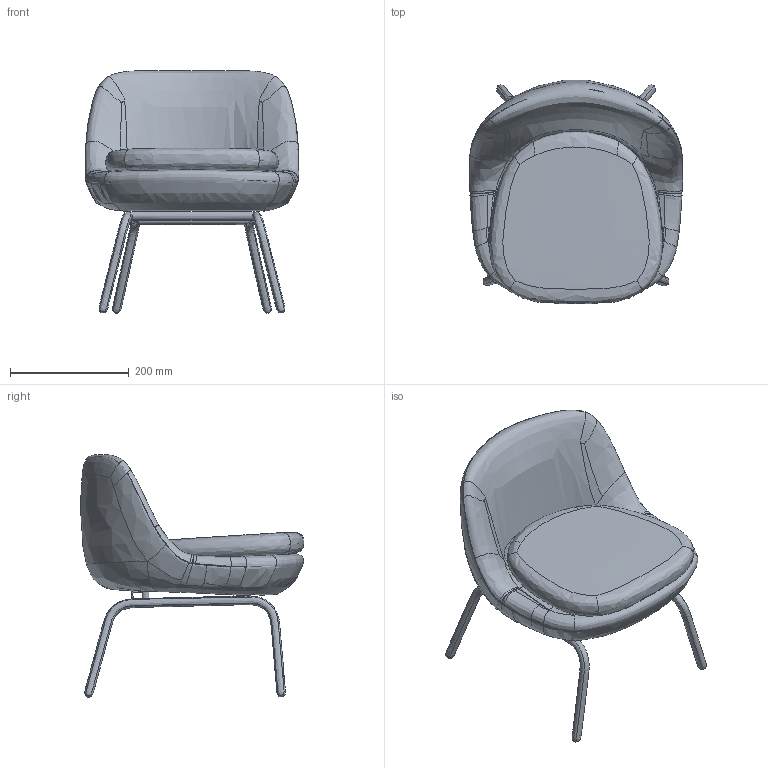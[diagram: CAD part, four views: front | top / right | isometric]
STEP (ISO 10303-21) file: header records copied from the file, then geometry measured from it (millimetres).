
FILE_DESCRIPTION(/* description */ (''),/* implementation_level */ '2;1');
FILE_NAME(/* name */ 'KINOSH~1',/* time_stamp */ '2026-06-15T21:36:05+09:00',/* author */ (''),/* organization */ (''),/* preprocessor_version */ 'ST-DEVELOPER v16.5',/* originating_system */ '',/* authorisation */ '');
FILE_SCHEMA (('AUTOMOTIVE_DESIGN'));
Length unit declared in the file: millimetre
Products named in the file (1): Document
Bounding box: 359.5 x 375.97 x 408.56 mm (x, y, z)
Volume: 11701309.9 mm3; surface area: 642788.5 mm2
Topology: 12 solids, 12 shells, 147 faces, 349 edges, 214 vertices
Faces by surface type: bspline 147
Entity records: 31578 total; most frequent: CARTESIAN_POINT 29273, ORIENTED_EDGE 674, EDGE_CURVE 337, B_SPLINE_CURVE_WITH_KNOTS 337, VERTEX_POINT 214, ADVANCED_FACE 147, FACE_OUTER_BOUND 147, EDGE_LOOP 147
